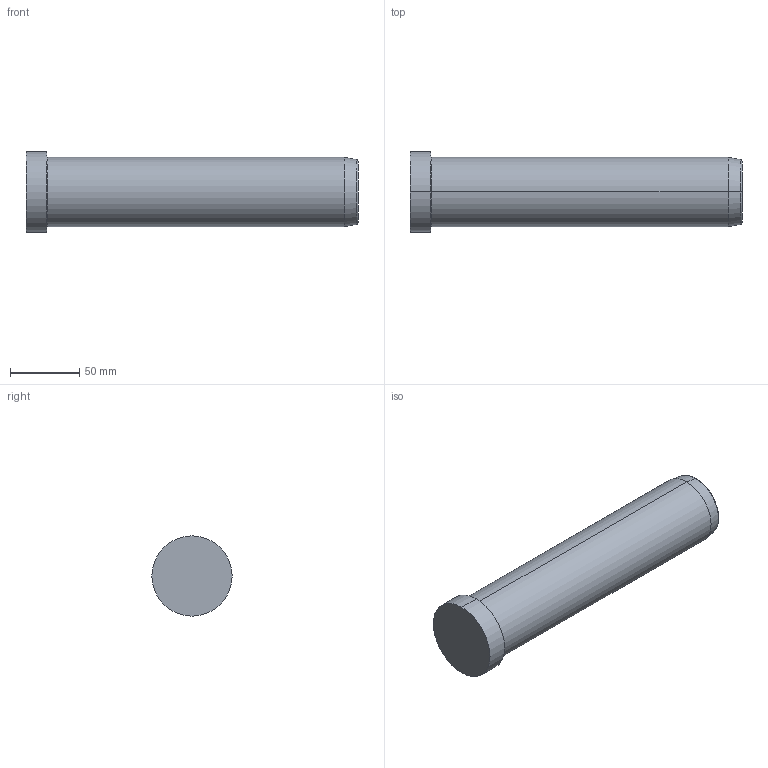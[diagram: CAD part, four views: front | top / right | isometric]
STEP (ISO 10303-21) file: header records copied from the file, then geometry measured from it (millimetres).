
FILE_DESCRIPTION( ( 'STEP AP203' ), '1' );
FILE_NAME( 'D:/Delta 3 D/D01D/50/D01D - 50x240.step', '2003-01-02T23:40:08', ( ' ' ), ( ' ' ), 'XStep 1.0', ' ', ' ' );
FILE_SCHEMA( ( 'CONFIG_CONTROL_DESIGN' ) );
Length unit declared in the file: metre
Products named in the file (1): 1
Bounding box: 240 x 58 x 58 mm (x, y, z)
Volume: 480025.3 mm3; surface area: 43096.9 mm2
Topology: 1 solids, 1 shells, 14 faces, 26 edges, 16 vertices
Faces by surface type: revolution 8, bspline 6
Entity records: 437 total; most frequent: CARTESIAN_POINT 121, ORIENTED_EDGE 52, DIRECTION 50, EDGE_CURVE 26, AXIS2_PLACEMENT_3D 17, EDGE_LOOP 16, VERTEX_POINT 16, CIRCLE 16
